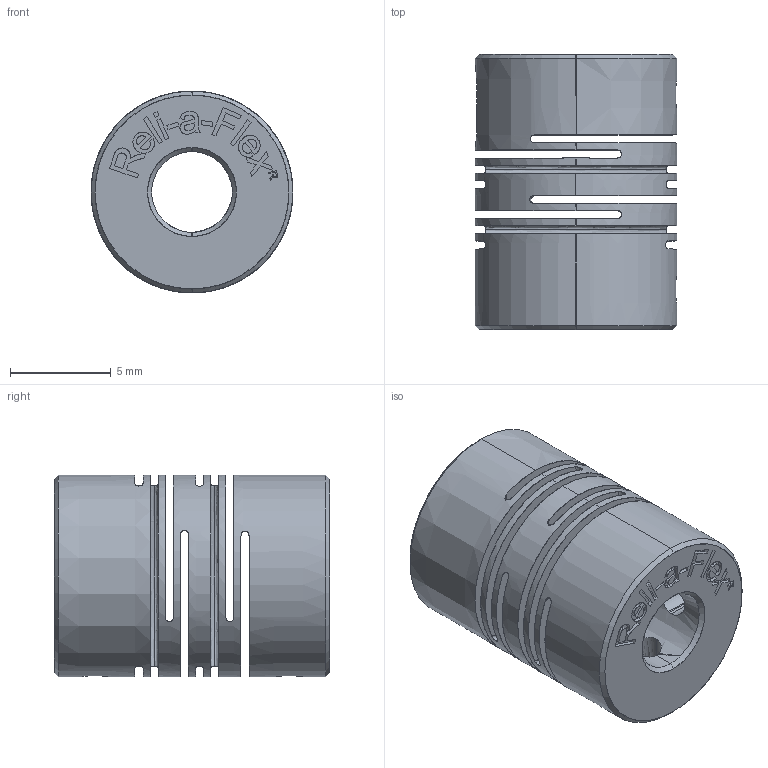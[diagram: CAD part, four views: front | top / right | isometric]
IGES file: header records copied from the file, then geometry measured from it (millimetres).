
Start section: SolidWorks IGES file using analytic representation for surfaces
Global section: file name: C:\Users\render\Documents\CAD Files\Reli-a-flex\Miniature Reli-a-Flex Couplings (6,8,10)\RCSA10\RCSA10-4-4.IGS; native system: SolidWorks 2011; preprocessor: SolidWorks 2011; author: render; date: 120426.143152; units: millimetre
Bounding box: 10 x 13.65 x 10 mm (x, y, z)
Surface area: 1502.4 mm2 (no closed solid volume)
Topology: 0 solids, 0 shells, 212 faces, 2862 edges, 2862 vertices
Faces by surface type: bspline 136, revolution 76
